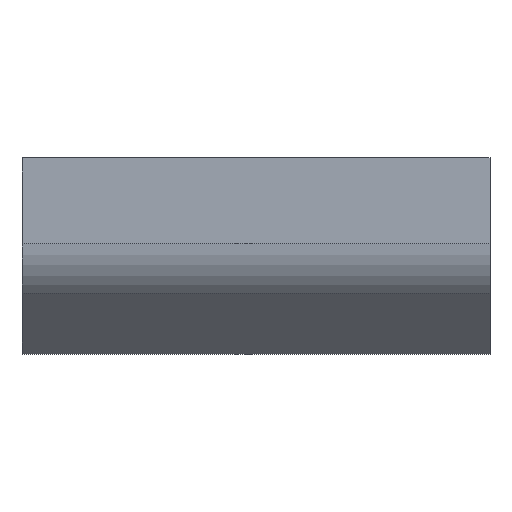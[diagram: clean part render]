
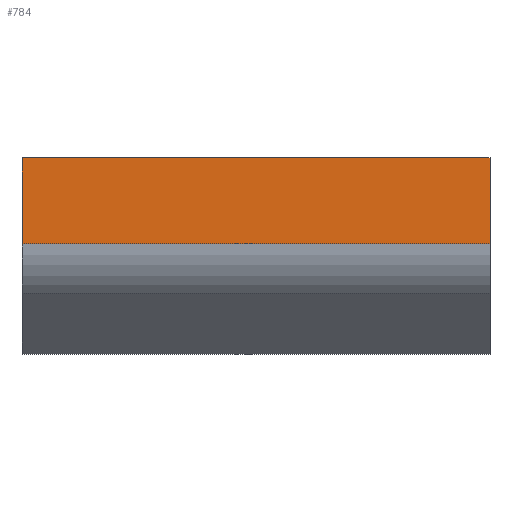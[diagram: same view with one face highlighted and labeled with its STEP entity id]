
A CAD part, front view. The second image highlights one B-rep face of the part: STEP entity #784.
In plain terms, the highlighted planar face has unit normal (0, -1, 0).
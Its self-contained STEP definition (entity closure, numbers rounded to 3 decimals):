
#33 = CARTESIAN_POINT ( 'NONE',  ( -250., -75., 0. ) ) ;
#62 = VERTEX_POINT ( 'NONE', #33 ) ;
#126 = CARTESIAN_POINT ( 'NONE',  ( 250., -75., 0. ) ) ;
#177 = EDGE_CURVE ( 'NONE', #62, #1543, #229, .T. ) ;
#183 = ORIENTED_EDGE ( 'NONE', *, *, #1134, .F. ) ;
#203 = EDGE_CURVE ( 'NONE', #1311, #62, #974, .T. ) ;
#204 = DIRECTION ( 'NONE',  ( -1., 0., 0. ) ) ;
#229 = LINE ( 'NONE', #749, #599 ) ;
#290 = ORIENTED_EDGE ( 'NONE', *, *, #358, .F. ) ;
#329 = VERTEX_POINT ( 'NONE', #1451 ) ;
#358 = EDGE_CURVE ( 'NONE', #1311, #329, #432, .T. ) ;
#405 = DIRECTION ( 'NONE',  ( 0., 0., -1. ) ) ;
#432 = LINE ( 'NONE', #948, #1220 ) ;
#599 = VECTOR ( 'NONE', #1501, 1000. ) ;
#605 = CARTESIAN_POINT ( 'NONE',  ( 250., -75., -91.777 ) ) ;
#696 = CARTESIAN_POINT ( 'NONE',  ( 250., -75., -91.777 ) ) ;
#726 = ORIENTED_EDGE ( 'NONE', *, *, #177, .T. ) ;
#749 = CARTESIAN_POINT ( 'NONE',  ( -250., -75., -91.777 ) ) ;
#784 = ADVANCED_FACE ( 'NONE', ( #1091 ), #1334, .F. ) ;
#822 = AXIS2_PLACEMENT_3D ( 'NONE', #696, #1616, #1098 ) ;
#948 = CARTESIAN_POINT ( 'NONE',  ( 250., -75., -91.777 ) ) ;
#974 = LINE ( 'NONE', #1363, #1489 ) ;
#1091 = FACE_OUTER_BOUND ( 'NONE', #1418, .T. ) ;
#1098 = DIRECTION ( 'NONE',  ( 0., 0., 1. ) ) ;
#1101 = DIRECTION ( 'NONE',  ( -1., 0., 0. ) ) ;
#1134 = EDGE_CURVE ( 'NONE', #329, #1543, #1620, .T. ) ;
#1148 = CARTESIAN_POINT ( 'NONE',  ( -250., -75., -91.777 ) ) ;
#1220 = VECTOR ( 'NONE', #405, 1000. ) ;
#1311 = VERTEX_POINT ( 'NONE', #126 ) ;
#1334 = PLANE ( 'NONE',  #822 ) ;
#1363 = CARTESIAN_POINT ( 'NONE',  ( 250., -75., 0. ) ) ;
#1418 = EDGE_LOOP ( 'NONE', ( #726, #183, #290, #1511 ) ) ;
#1451 = CARTESIAN_POINT ( 'NONE',  ( 250., -75., -91.777 ) ) ;
#1489 = VECTOR ( 'NONE', #204, 1000. ) ;
#1501 = DIRECTION ( 'NONE',  ( 0., 0., -1. ) ) ;
#1511 = ORIENTED_EDGE ( 'NONE', *, *, #203, .T. ) ;
#1543 = VERTEX_POINT ( 'NONE', #1148 ) ;
#1616 = DIRECTION ( 'NONE',  ( 0., 1., 0. ) ) ;
#1620 = LINE ( 'NONE', #605, #1651 ) ;
#1651 = VECTOR ( 'NONE', #1101, 1000. ) ;
